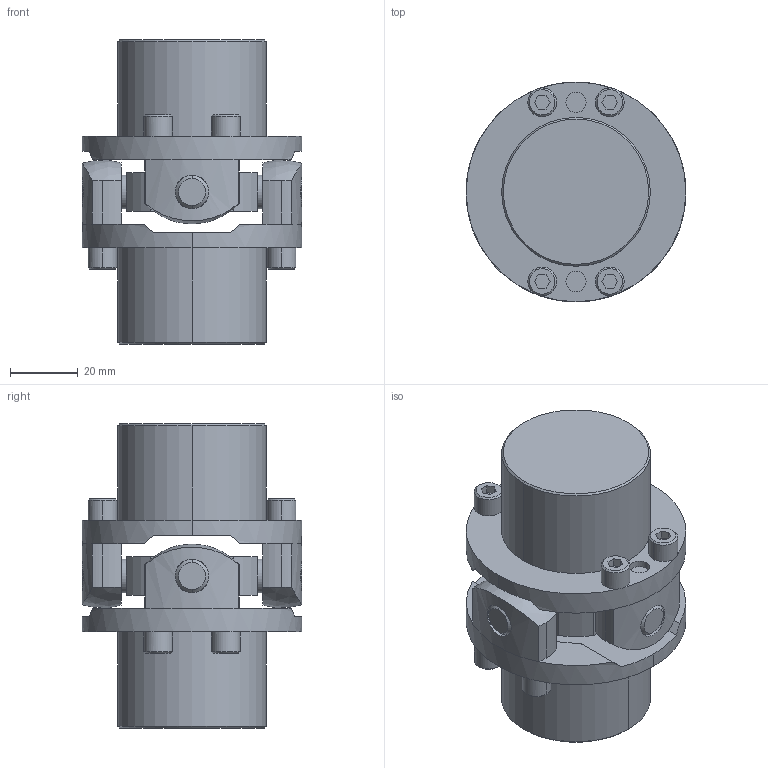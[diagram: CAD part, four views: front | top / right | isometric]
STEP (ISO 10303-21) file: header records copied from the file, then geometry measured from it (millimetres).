
FILE_DESCRIPTION((''),'2;1');
FILE_NAME('UCR-65.stp','2013-05-13T09:42:35',(''),(''),'AutoCAD STEP 2000i','AutoCAD 2000i',', , ');
FILE_SCHEMA(('CONFIG_CONTROL_DESIGN'));
Length unit declared in the file: millimetre
Products named in the file (9): UCR-65; 忣兜1; UCR-6502; UCN65-B022; UCN65-B016; UCNF-6502; UCN65-B014-1; UCN65-B014; UCN65-SEN
Assembly tree (8 placements, depth 2):
  UCR-65
    忣兜1
    UCR-6502
    UCN65-B022
    UCN65-B016
    UCNF-6502
    UCN65-B014-1
    UCN65-B014
    UCN65-SEN
Bounding box: 65 x 65 x 90 mm (x, y, z)
Volume: 153909.4 mm3; surface area: 34323.1 mm2
Topology: 1 solids, 1 shells, 222 faces, 550 edges, 352 vertices
Faces by surface type: plane 112, cylinder 78, cone 28, sphere 4
Entity records: 7209 total; most frequent: CARTESIAN_POINT 1513, DIRECTION 1252, ORIENTED_EDGE 1100, EDGE_CURVE 550, AXIS2_PLACEMENT_3D 483, VERTEX_POINT 352, VECTOR 286, LINE 286
